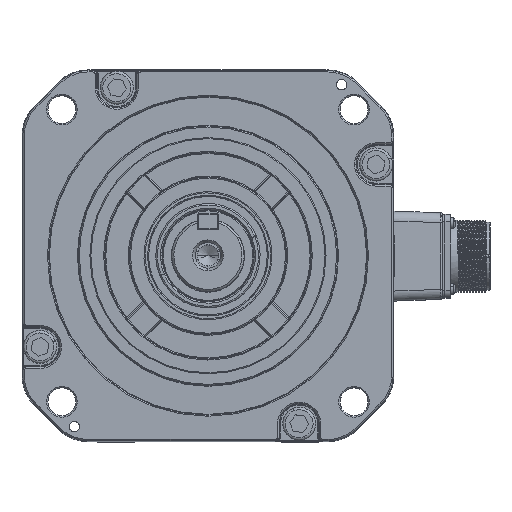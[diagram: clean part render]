
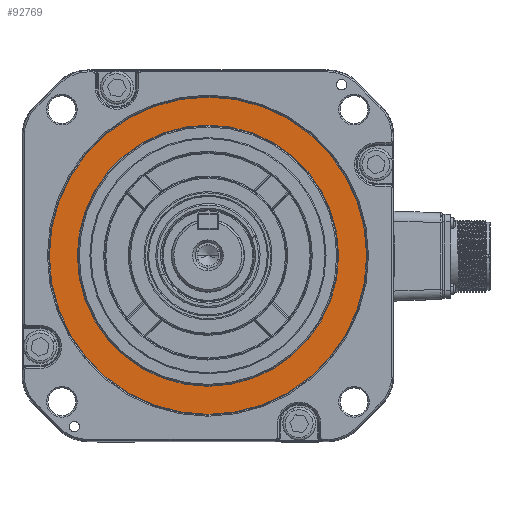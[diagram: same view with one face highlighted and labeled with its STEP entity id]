
A CAD part, top view. The second image highlights one B-rep face of the part: STEP entity #92769.
In plain terms, the highlighted planar face has unit normal (0, 0, 1).
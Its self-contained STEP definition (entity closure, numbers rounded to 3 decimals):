
#6238 = EDGE_CURVE ( 'NONE', #73028, #87698, #37955, .T. ) ;
#6943 = VERTEX_POINT ( 'NONE', #60574 ) ;
#7227 = AXIS2_PLACEMENT_3D ( 'NONE', #80267, #61441, #7387 ) ;
#7387 = DIRECTION ( 'NONE',  ( -1., 0., 0. ) ) ;
#9395 = DIRECTION ( 'NONE',  ( 0., 0., 1. ) ) ;
#11169 = EDGE_LOOP ( 'NONE', ( #60595, #18815 ) ) ;
#11245 = DIRECTION ( 'NONE',  ( -1., 0., 0. ) ) ;
#16157 = AXIS2_PLACEMENT_3D ( 'NONE', #66411, #74321, #28780 ) ;
#17246 = CARTESIAN_POINT ( 'NONE',  ( -76.793, 0., -3.7 ) ) ;
#18815 = ORIENTED_EDGE ( 'NONE', *, *, #6238, .T. ) ;
#26546 = AXIS2_PLACEMENT_3D ( 'NONE', #74366, #9395, #47037 ) ;
#28780 = DIRECTION ( 'NONE',  ( -1., 0., 0. ) ) ;
#29097 = EDGE_CURVE ( 'NONE', #87698, #73028, #107930, .T. ) ;
#33091 = CARTESIAN_POINT ( 'NONE',  ( 0., 0., -3.7 ) ) ;
#33791 = ORIENTED_EDGE ( 'NONE', *, *, #119452, .T. ) ;
#37955 = CIRCLE ( 'NONE', #119428, 76.793 ) ;
#38004 = CARTESIAN_POINT ( 'NONE',  ( 0., 0., -3.7 ) ) ;
#43209 = ORIENTED_EDGE ( 'NONE', *, *, #81469, .T. ) ;
#47037 = DIRECTION ( 'NONE',  ( -1., 0., 0. ) ) ;
#51868 = DIRECTION ( 'NONE',  ( -1., 0., 0. ) ) ;
#56201 = DIRECTION ( 'NONE',  ( 0., 0., -1. ) ) ;
#58908 = CARTESIAN_POINT ( 'NONE',  ( 76.793, 0., -3.7 ) ) ;
#60574 = CARTESIAN_POINT ( 'NONE',  ( -63.207, 0., -3.7 ) ) ;
#60595 = ORIENTED_EDGE ( 'NONE', *, *, #29097, .T. ) ;
#61441 = DIRECTION ( 'NONE',  ( 0., 0., -1. ) ) ;
#64952 = EDGE_LOOP ( 'NONE', ( #43209, #33791 ) ) ;
#66411 = CARTESIAN_POINT ( 'NONE',  ( 0., 0., -3.7 ) ) ;
#72353 = FACE_BOUND ( 'NONE', #64952, .T. ) ;
#73028 = VERTEX_POINT ( 'NONE', #58908 ) ;
#74321 = DIRECTION ( 'NONE',  ( 0., 0., -1. ) ) ;
#74366 = CARTESIAN_POINT ( 'NONE',  ( 0., 0., -3.7 ) ) ;
#76291 = CIRCLE ( 'NONE', #16157, 63.207 ) ;
#77630 = CIRCLE ( 'NONE', #87344, 63.207 ) ;
#80267 = CARTESIAN_POINT ( 'NONE',  ( 0., 77., -3.7 ) ) ;
#81469 = EDGE_CURVE ( 'NONE', #6943, #84381, #76291, .T. ) ;
#84381 = VERTEX_POINT ( 'NONE', #117137 ) ;
#87344 = AXIS2_PLACEMENT_3D ( 'NONE', #38004, #56201, #11245 ) ;
#87698 = VERTEX_POINT ( 'NONE', #17246 ) ;
#92769 = ADVANCED_FACE ( 'NONE', ( #108810, #72353 ), #99092, .F. ) ;
#99092 = PLANE ( 'NONE',  #7227 ) ;
#107164 = DIRECTION ( 'NONE',  ( 0., 0., 1. ) ) ;
#107930 = CIRCLE ( 'NONE', #26546, 76.793 ) ;
#108810 = FACE_OUTER_BOUND ( 'NONE', #11169, .T. ) ;
#117137 = CARTESIAN_POINT ( 'NONE',  ( 63.207, 0., -3.7 ) ) ;
#119428 = AXIS2_PLACEMENT_3D ( 'NONE', #33091, #107164, #51868 ) ;
#119452 = EDGE_CURVE ( 'NONE', #84381, #6943, #77630, .T. ) ;
